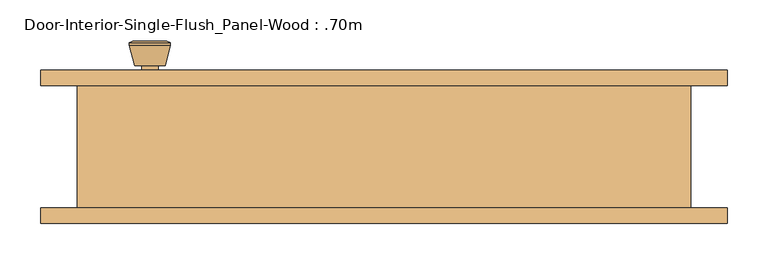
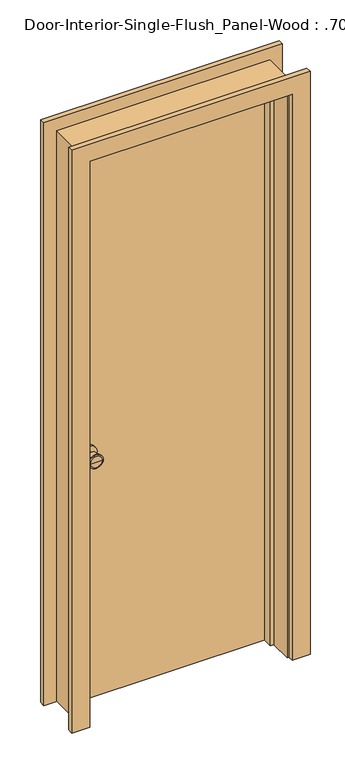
"""IFC4 building model written with IfcOpenShell, lengths in millimetres: door geometry, Door-Interior-Single-Flush_Panel-Wood : .70m."""

from ifc_helpers import new_model, si_unit, point, frame, frame_2d, origin, origin_with_axes, place, context, project, spatial, polyline, circle_curve, trimmed, segment, composite_curve, outline, extrude, faceted_brep, source, transform, mapped, element, save
from ifc_brep_helpers import plane_surface, cylinder_surface, revolved_surface, advanced_brep


def door_interior_single_flush_panel_wood_70m_89b55d44(model_context):
    return source(origin(), model_context, "Body", "SolidModel", [
        advanced_brep(
        [(-286.5, 30.9, 914.4), (-276.5, 30.9, 914.4), (-296.5, 30.9, 914.4), (-266.0241324, -18.1, 914.4), (-286.5, -18.1, 914.4), (-306.9758676, -18.1, 914.4), (-261.5, -16.2721319, 914.4), (-311.5, -16.2721319, 914.4), (-261.5, -12.8084537, 914.4), (-311.5, -12.8084537, 914.4), (-267.863764, 11.9, 914.4), (-305.136236, 11.9, 914.4), (-276.5, 11.9, 914.4), (-296.5, 11.9, 914.4)],
        [
            (0, 1),
            (1, 2, circle_curve(frame((-286.5, 30.9, 914.4), z_axis=(0.0, 1.0, 0.0), x_axis=(-1.0, 0.0, 0.0)), 10.0)),
            (2, 0),
            (2, 1, circle_curve(frame((-286.5, 30.9, 914.4), z_axis=(0.0, 1.0, 0.0), x_axis=(-1.0, 0.0, 0.0)), 10.0)),
            (3, 4),
            (4, 5),
            (5, 3, circle_curve(frame((-286.5, -18.1, 914.4), z_axis=(0.0, -1.0, 0.0), x_axis=(-1.0, 0.0, 0.0)), 20.4758676)),
            (3, 5, circle_curve(frame((-286.5, -18.1, 914.4), z_axis=(0.0, -1.0, 0.0), x_axis=(-1.0, 0.0, 0.0)), 20.4758676)),
            (6, 3),
            (5, 7),
            (7, 6, circle_curve(frame((-286.5, -16.2721319, 914.4), z_axis=(0.0, -1.0, 0.0), x_axis=(-1.0, 0.0, 0.0)), 25.0)),
            (6, 7, circle_curve(frame((-286.5, -16.2721319, 914.4), z_axis=(0.0, -1.0, 0.0), x_axis=(-1.0, 0.0, 0.0)), 25.0)),
            (8, 6),
            (7, 9),
            (9, 8, circle_curve(frame((-286.5, -12.8084537, 914.4), z_axis=(0.0, -1.0, 0.0), x_axis=(-1.0, 0.0, 0.0)), 25.0)),
            (8, 9, circle_curve(frame((-286.5, -12.8084537, 914.4), z_axis=(0.0, -1.0, 0.0), x_axis=(-1.0, 0.0, 0.0)), 25.0)),
            (10, 8),
            (9, 11),
            (11, 10, circle_curve(frame((-286.5, 11.9, 914.4), z_axis=(0.0, -1.0, 0.0), x_axis=(-1.0, 0.0, 0.0)), 18.636236)),
            (10, 11, circle_curve(frame((-286.5, 11.9, 914.4), z_axis=(0.0, -1.0, 0.0), x_axis=(-1.0, 0.0, 0.0)), 18.636236)),
            (12, 10),
            (11, 13),
            (13, 12, circle_curve(frame((-286.5, 11.9, 914.4), z_axis=(0.0, -1.0, 0.0), x_axis=(-1.0, 0.0, 0.0)), 10.0)),
            (12, 13, circle_curve(frame((-286.5, 11.9, 914.4), z_axis=(0.0, -1.0, 0.0), x_axis=(-1.0, 0.0, 0.0)), 10.0)),
            (1, 12),
            (13, 2),
        ],
        [
            plane_surface(frame((-286.5, 30.9, 914.4), z_axis=(0.0, 1.0, 0.0), x_axis=(-1.0, 0.0, 0.0))),
            plane_surface(frame((-286.5, -18.1, 914.4), z_axis=(0.0, -1.0, 0.0), x_axis=(-1.0, 0.0, 0.0))),
            revolved_surface(polyline([(-306.9758676, -18.1, 914.4), (-311.5, -16.2721319, 914.4)]), (-286.5, 30.9, 914.4), (0.0, 1.0, 0.0)),
            cylinder_surface(frame((-286.5, 30.9, 914.4), z_axis=(0.0, 1.0, 0.0), x_axis=(-1.0, 0.0, 0.0)), 25.0),
            revolved_surface(polyline([(-311.5, -12.8084537, 914.4), (-305.136236, 11.9, 914.4)]), (-286.5, 30.9, 914.4), (0.0, 1.0, 0.0)),
            plane_surface(frame((-286.5, 11.9, 914.4), z_axis=(0.0, 1.0, 0.0), x_axis=(-1.0, 0.0, 0.0))),
            cylinder_surface(frame((-286.5, 30.9, 914.4), z_axis=(0.0, 1.0, 0.0), x_axis=(-1.0, 0.0, 0.0)), 10.0),
        ],
        [
            (0, [[1, 2, 3]]),
            (0, [[-3, 4, -1]]),
            (1, [[5, 6, 7]]),
            (1, [[-6, -5, 8]]),
            (2, [[9, -7, 10, 11]]),
            (2, [[-10, -8, -9, 12]]),
            (3, [[13, -11, 14, 15]]),
            (3, [[-14, -12, -13, 16]]),
            (4, [[17, -15, 18, 19]]),
            (4, [[-18, -16, -17, 20]]),
            (5, [[21, -19, 22, 23]]),
            (5, [[-22, -20, -21, 24]]),
            (6, [[25, -23, 26, -2]]),
            (6, [[-26, -24, -25, -4]]),
        ],
    ),
        extrude(outline(composite_curve([segment(trimmed(circle_curve(frame_2d((914.4, -286.5)), 30.0), [point((914.4, -316.5))], [point((914.4, -256.5))], False, "CARTESIAN"), True, "CONTINUOUS"), segment(trimmed(circle_curve(frame_2d((914.4, -286.5)), 30.0), [point((914.4, -256.5))], [point((914.4, -316.5))], False, "CARTESIAN"), True, "CONTINUOUS")], self_intersect=False)), frame((0.0, 30.9, 0.0), z_axis=(0.0, 1.0, 0.0), x_axis=(0.0, 0.0, 1.0)), (0.0, 0.0, 1.0), 6.0),
        advanced_brep(
        [(-286.5, 77.825, 914.4), (-296.5, 77.825, 914.4), (-276.5, 77.825, 914.4), (-266.0241324, 126.825, 914.4), (-306.9758676, 126.825, 914.4), (-286.5, 126.825, 914.4), (-261.5, 124.9971319, 914.4), (-311.5, 124.9971319, 914.4), (-261.5, 121.5334537, 914.4), (-311.5, 121.5334537, 914.4), (-267.863764, 96.825, 914.4), (-305.136236, 96.825, 914.4), (-276.5, 96.825, 914.4), (-296.5, 96.825, 914.4)],
        [
            (0, 1),
            (1, 2, circle_curve(frame((-286.5, 77.825, 914.4), z_axis=(0.0, -1.0, 0.0), x_axis=(-1.0, 0.0, 0.0)), 10.0)),
            (2, 0),
            (2, 1, circle_curve(frame((-286.5, 77.825, 914.4), z_axis=(0.0, -1.0, 0.0), x_axis=(-1.0, 0.0, 0.0)), 10.0)),
            (3, 4, circle_curve(frame((-286.5, 126.825, 914.4), z_axis=(0.0, 1.0, 0.0), x_axis=(-1.0, 0.0, 0.0)), 20.4758676)),
            (4, 5),
            (5, 3),
            (4, 3, circle_curve(frame((-286.5, 126.825, 914.4), z_axis=(0.0, 1.0, 0.0), x_axis=(-1.0, 0.0, 0.0)), 20.4758676)),
            (6, 7, circle_curve(frame((-286.5, 124.9971319, 914.4), z_axis=(0.0, 1.0, 0.0), x_axis=(-1.0, 0.0, 0.0)), 25.0)),
            (7, 4),
            (3, 6),
            (7, 6, circle_curve(frame((-286.5, 124.9971319, 914.4), z_axis=(0.0, 1.0, 0.0), x_axis=(-1.0, 0.0, 0.0)), 25.0)),
            (8, 9, circle_curve(frame((-286.5, 121.5334537, 914.4), z_axis=(0.0, 1.0, 0.0), x_axis=(-1.0, 0.0, 0.0)), 25.0)),
            (9, 7),
            (6, 8),
            (9, 8, circle_curve(frame((-286.5, 121.5334537, 914.4), z_axis=(0.0, 1.0, 0.0), x_axis=(-1.0, 0.0, 0.0)), 25.0)),
            (10, 11, circle_curve(frame((-286.5, 96.825, 914.4), z_axis=(0.0, 1.0, 0.0), x_axis=(-1.0, 0.0, 0.0)), 18.636236)),
            (11, 9),
            (8, 10),
            (11, 10, circle_curve(frame((-286.5, 96.825, 914.4), z_axis=(0.0, 1.0, 0.0), x_axis=(-1.0, 0.0, 0.0)), 18.636236)),
            (12, 13, circle_curve(frame((-286.5, 96.825, 914.4), z_axis=(0.0, 1.0, 0.0), x_axis=(-1.0, 0.0, 0.0)), 10.0)),
            (13, 11),
            (10, 12),
            (13, 12, circle_curve(frame((-286.5, 96.825, 914.4), z_axis=(0.0, 1.0, 0.0), x_axis=(-1.0, 0.0, 0.0)), 10.0)),
            (1, 13),
            (12, 2),
        ],
        [
            plane_surface(frame((-286.5, 77.825, 914.4), z_axis=(0.0, -1.0, 0.0), x_axis=(-1.0, 0.0, 0.0))),
            plane_surface(frame((-286.5, 126.825, 914.4), z_axis=(0.0, 1.0, 0.0), x_axis=(-1.0, 0.0, 0.0))),
            revolved_surface(polyline([(-306.9758676, 126.825, 914.4), (-311.5, 124.9971319, 914.4)]), (-286.5, 77.825, 914.4), (0.0, -1.0, 0.0)),
            cylinder_surface(frame((-286.5, 77.825, 914.4), z_axis=(0.0, -1.0, 0.0), x_axis=(-1.0, 0.0, 0.0)), 25.0),
            revolved_surface(polyline([(-311.5, 121.5334537, 914.4), (-305.136236, 96.825, 914.4)]), (-286.5, 77.825, 914.4), (0.0, -1.0, 0.0)),
            plane_surface(frame((-286.5, 96.825, 914.4), z_axis=(0.0, -1.0, 0.0), x_axis=(-1.0, 0.0, 0.0))),
            cylinder_surface(frame((-286.5, 77.825, 914.4), z_axis=(0.0, -1.0, 0.0), x_axis=(-1.0, 0.0, 0.0)), 10.0),
        ],
        [
            (0, [[1, 2, 3]]),
            (0, [[-3, 4, -1]]),
            (1, [[5, 6, 7]]),
            (1, [[8, -7, -6]]),
            (2, [[9, 10, -5, 11]]),
            (2, [[12, -11, -8, -10]]),
            (3, [[13, 14, -9, 15]]),
            (3, [[16, -15, -12, -14]]),
            (4, [[17, 18, -13, 19]]),
            (4, [[20, -19, -16, -18]]),
            (5, [[21, 22, -17, 23]]),
            (5, [[24, -23, -20, -22]]),
            (6, [[-2, 25, -21, 26]]),
            (6, [[-4, -26, -24, -25]]),
        ],
    ),
        extrude(outline(composite_curve([segment(trimmed(circle_curve(frame_2d((914.4, -286.5)), 30.0), [point((914.4, -316.5))], [point((914.4, -256.5))], False, "CARTESIAN"), True, "CONTINUOUS"), segment(trimmed(circle_curve(frame_2d((914.4, -286.5)), 30.0), [point((914.4, -256.5))], [point((914.4, -316.5))], False, "CARTESIAN"), True, "CONTINUOUS")], self_intersect=False)), frame((0.0, 71.825, 0.0), z_axis=(0.0, 1.0, 0.0), x_axis=(0.0, 0.0, 1.0)), (0.0, 0.0, 1.0), 6.0),
        extrude(outline(polyline([(350.0, 36.9), (-350.0, 36.9), (-350.0, 71.825), (350.0, 71.825), (350.0, 36.9)])), origin_with_axes(), (0.0, 0.0, 1.0), 2100.0),
        faceted_brep([(375.4, 71.825, 0.0), (375.4, -78.175, 0.0), (350.0, -78.175, 0.0), (350.0, 1.975, 0.0), (337.3, 1.975, 0.0), (337.3, 36.9, 0.0), (350.0, 36.9, 0.0), (350.0, 71.825, 0.0), (375.4, 71.825, 2125.4), (375.4, -78.175, 2125.4), (-375.4, -78.175, 2125.4), (-375.4, -78.175, 0.0), (-350.0, -78.175, 0.0), (-350.0, -78.175, 2100.0), (350.0, -78.175, 2100.0), (350.0, 1.975, 2100.0), (-350.0, 1.975, 2100.0), (-350.0, 1.975, 0.0), (-337.3, 1.975, 0.0), (-337.3, 1.975, 2087.3), (337.3, 1.975, 2087.3), (337.3, 36.9, 2087.3), (-337.3, 36.9, 2087.3), (-337.3, 36.9, 0.0), (-350.0, 36.9, 0.0), (-350.0, 36.9, 2100.0), (350.0, 36.9, 2100.0), (350.0, 71.825, 2100.0), (-350.0, 71.825, 2100.0), (-350.0, 71.825, 0.0), (-375.4, 71.825, 0.0), (-375.4, 71.825, 2125.4)], [[[0, 1, 2, 3, 4, 5, 6, 7]], [[1, 0, 8, 9]], [[2, 1, 9, 10, 11, 12, 13, 14]], [[3, 2, 14, 15]], [[4, 3, 15, 16, 17, 18, 19, 20]], [[5, 4, 20, 21]], [[6, 5, 21, 22, 23, 24, 25, 26]], [[7, 6, 26, 27]], [[0, 7, 27, 28, 29, 30, 31, 8]], [[9, 8, 31, 10]], [[15, 14, 13, 16]], [[21, 20, 19, 22]], [[27, 26, 25, 28]], [[30, 29, 24, 23, 18, 17, 12, 11]], [[10, 31, 30, 11]], [[16, 13, 12, 17]], [[22, 19, 18, 23]], [[28, 25, 24, 29]]]),
        extrude(outline(polyline([(0.0, 356.35), (0.0, 419.85), (2169.85, 419.85), (2169.85, -419.85), (0.0, -419.85), (0.0, -356.35), (2106.35, -356.35), (2106.35, 356.35), (0.0, 356.35)])), frame((0.0, -97.225, 0.0), z_axis=(0.0, 1.0, 0.0), x_axis=(0.0, 0.0, 1.0)), (0.0, 0.0, 1.0), 19.05),
        extrude(outline(polyline([(0.0, 356.35), (0.0, 419.85), (2169.85, 419.85), (2169.85, -419.85), (0.0, -419.85), (0.0, -356.35), (2106.35, -356.35), (2106.35, 356.35), (0.0, 356.35)])), frame((0.0, 71.825, 0.0), z_axis=(0.0, 1.0, 0.0), x_axis=(0.0, 0.0, 1.0)), (0.0, 0.0, 1.0), 19.05),
    ])


if __name__ == "__main__":
    model = new_model("IFC4")
    model_context = context("Model", 3, world=origin())
    ifc_project = project(units=[si_unit("LENGTHUNIT", "METRE", prefix="MILLI")], contexts=[model_context])
    site = spatial("IfcSite", under=ifc_project)
    building = spatial("IfcBuilding", under=site)
    placement = place(None, origin())
    door_interior_single_flush_panel_wood_70m_shape = door_interior_single_flush_panel_wood_70m_89b55d44(model_context)
    element("IfcDoor", 1, ObjectType="Door-Interior-Single-Flush_Panel-Wood : .70m", at=placement, inside=building, context=model_context, shape_type="MappedRepresentation", body=[
        mapped(door_interior_single_flush_panel_wood_70m_shape, transform((0.0, 0.0, 0.0), x_axis=(1.0, 0.0, 0.0), y_axis=(0.0, 1.0, 0.0), z_axis=(0.0, 0.0, 1.0))),
    ])
    save(model, "model.ifc")
